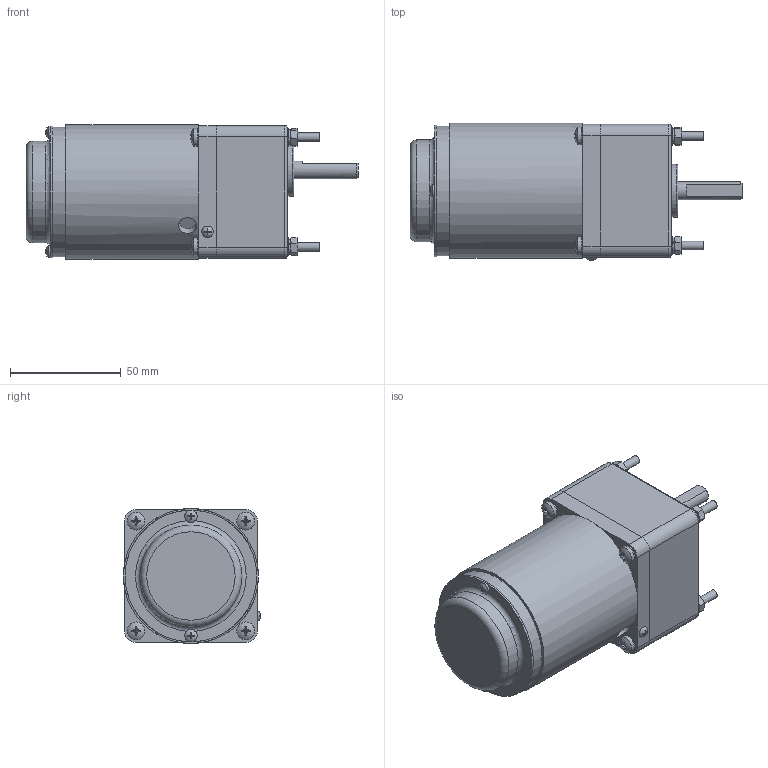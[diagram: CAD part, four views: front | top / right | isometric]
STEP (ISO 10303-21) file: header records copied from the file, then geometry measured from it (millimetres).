
FILE_DESCRIPTION(/* description */ (''),/* implementation_level */ '2;1');
FILE_NAME(/* name */ '60矮箱T-6W调速.stp',/* time_stamp */ '2022-10-31T08:17:09+08:00',/* author */ (''),/* organization */ (''),/* preprocessor_version */ 'ST-DEVELOPER v16.7',/* originating_system */ 'SIEMENS PLM Software NX 1899',/* authorisation */ '');
FILE_SCHEMA (('AP203_CONFIGURATION_CONTROLLED_3D_DESIGN_OF_MECHANICAL_PARTS_AND_ASSEMBLIES_MIM_LF { 1 0 10303 403 2 1 2}'));
Length unit declared in the file: millimetre
Products named in the file (1): yf186188FEB6lbxk
Bounding box: 150 x 61.99 x 61 mm (x, y, z)
Volume: 356720 mm3; surface area: 48710.2 mm2
Topology: 24 solids, 26 shells, 413 faces, 956 edges, 614 vertices
Faces by surface type: plane 175, bspline 84, cylinder 75, cone 61, torus 12, sphere 6
Full cylindrical faces by diameter (mm): 3 x1, 3.432 x4, 3.838 x4, 4 x4, 4.3 x8, 5.5 x4, 5.6 x2, 6 x5, 8 x13, 8.2 x1, 24 x1, 30 x1, 46 x1, 52.6 x1, 57 x2, 58.5 x1, 59.5 x1, 61 x1
Entity records: 13022 total; most frequent: CARTESIAN_POINT 3605, ORIENTED_EDGE 1692, DIRECTION 1442, EDGE_CURVE 846, AXIS2_PLACEMENT_3D 623, VERTEX_POINT 587, EDGE_LOOP 553, ADVANCED_FACE 413
